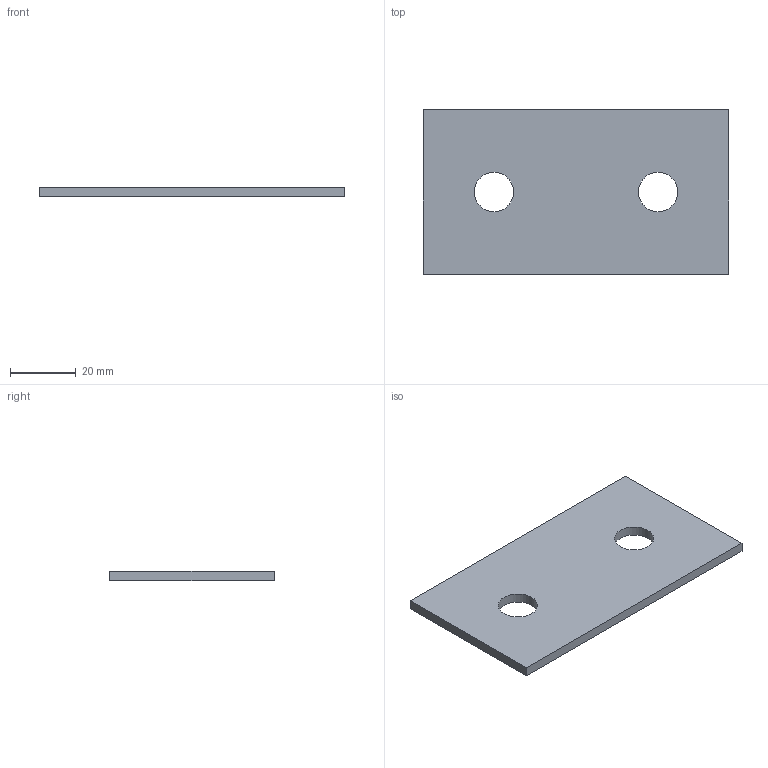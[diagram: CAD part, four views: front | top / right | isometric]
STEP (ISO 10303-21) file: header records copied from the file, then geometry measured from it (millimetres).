
FILE_DESCRIPTION (( 'STEP AP203' ), '1' );
FILE_NAME ('ORW-72.24.10.015 砑鳧罻.STEP', '2025-10-13T13:18:07', ( '燴僽樥' ), ( '' ), 'SwSTEP 2.0', 'SolidWorks 2025', '' );
FILE_SCHEMA (( 'CONFIG_CONTROL_DESIGN' ));
Length unit declared in the file: millimetre
Products named in the file (1): ORW-72.24.10.015 Планка
Bounding box: 93 x 50 x 3 mm (x, y, z)
Volume: 13271.4 mm3; surface area: 9931.8 mm2
Topology: 1 solids, 1 shells, 8 faces, 18 edges, 12 vertices
Faces by surface type: plane 6, cylinder 2
Full cylindrical faces by diameter (mm): 12 x2
Entity records: 299 total; most frequent: DIRECTION 38, CARTESIAN_POINT 37, ORIENTED_EDGE 32, EDGE_CURVE 16, EDGE_LOOP 14, AXIS2_PLACEMENT_3D 13, VECTOR 12, VERTEX_POINT 12
